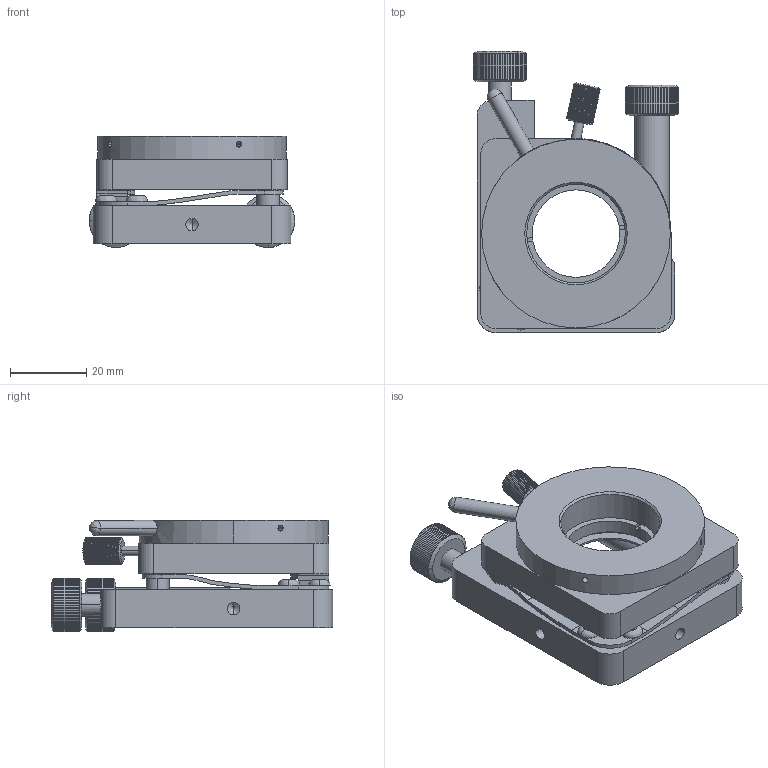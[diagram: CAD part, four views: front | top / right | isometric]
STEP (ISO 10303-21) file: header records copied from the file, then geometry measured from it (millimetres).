
FILE_DESCRIPTION (( 'STEP AP203' ), '1' );
FILE_NAME ('5APH59T-1.STEP', '2008-09-28T11:18:15', ( 'Darius' ), ( '' ), 'SwSTEP 2.0', 'SolidWorks 2003240', '' );
FILE_SCHEMA (( 'CONFIG_CONTROL_DESIGN' ));
Length unit declared in the file: millimetre
Products named in the file (1): 5APH59T-1
Bounding box: 54 x 73.92 x 29.19 mm (x, y, z)
Volume: 44466.5 mm3; surface area: 17780.4 mm2
Topology: 1 solids, 4 shells, 852 faces, 2311 edges, 1495 vertices
Faces by surface type: plane 589, bspline 139, cylinder 95, cone 29
Entity records: 29187 total; most frequent: CARTESIAN_POINT 9531, ORIENTED_EDGE 4602, DIRECTION 3203, EDGE_CURVE 2301, VERTEX_POINT 1495, LINE 1153, VECTOR 1153, AXIS2_PLACEMENT_3D 1025
